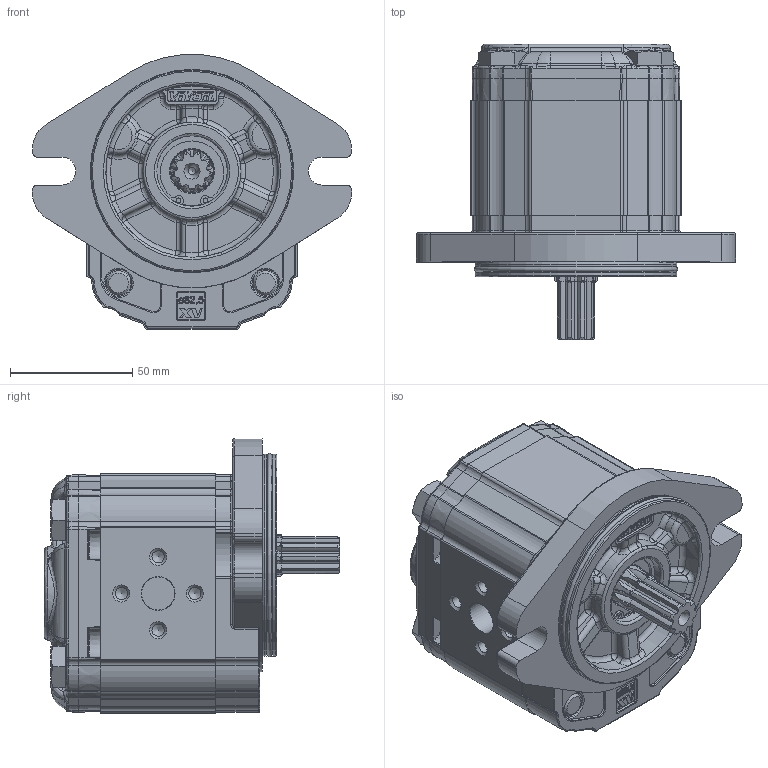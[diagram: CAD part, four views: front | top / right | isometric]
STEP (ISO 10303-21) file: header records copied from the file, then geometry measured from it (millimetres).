
FILE_DESCRIPTION(/* description */ ('Unknown'),/* implementation_level */ '2;1');
FILE_NAME(/* name */ 'X2M4131IOOF',/* time_stamp */ '2021-04-14T19:26:54+02:00',/* author */ ('Unknown'),/* organization */ ('Unknown'),/* preprocessor_version */ 'ST-DEVELOPER v16.7',/* originating_system */ 'Solid Edge',/* authorisation */ 'Unknown');
FILE_SCHEMA (('AUTOMOTIVE_DESIGN {1 0 10303 214 3 1 1}'));
Products named in the file (5): X2M4131IOOF; X2M31; 2I; X2OOH47; XM219-F
Assembly tree (4 placements, depth 2):
  X2M4131IOOF
    X2M31
    2I
    X2OOH47
    XM219-F
Bounding box: 130.38 x 120.7 x 112.3 mm (x, y, z)
Volume: 661036 mm3; surface area: 110432.6 mm2
Topology: 4 solids, 5 shells, 2141 faces, 5291 edges, 3226 vertices
Faces by surface type: cylinder 635, plane 575, bspline 513, torus 263, cone 117, sphere 38
Full cylindrical faces by diameter (mm): 2 x2, 4.917 x4, 5 x4, 10 x4, 10.5 x4, 11 x2, 11.5 x4, 13.5 x2, 16 x4, 17.42 x1, 18 x1, 20.595 x1, 23.332 x1, 25.834 x1, 28.5 x1, 28.56 x1, 28.57 x1, 28.8 x1, 30.4 x1, 79.6 x2, 82.5 x2
Entity records: 88508 total; most frequent: CARTESIAN_POINT 28313, ORIENTED_EDGE 10146, DIRECTION 8580, EDGE_CURVE 5073, AXIS2_PLACEMENT_3D 3279, VERTEX_POINT 3152, FACE_BOUND 2367, EDGE_LOOP 2358
